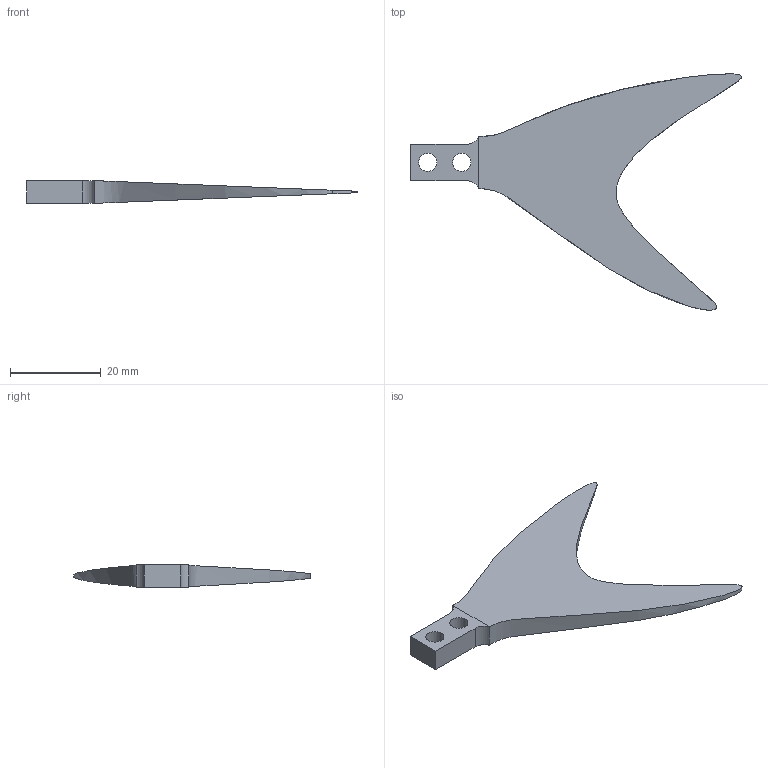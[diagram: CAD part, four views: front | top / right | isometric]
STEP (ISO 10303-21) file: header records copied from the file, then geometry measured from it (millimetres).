
FILE_DESCRIPTION(/* description */ (''),/* implementation_level */ '2;1');
FILE_NAME(/* name */ 'C:/Users/Diego/Downloads/9/Animalitos/Part5 v1.step',/* time_stamp */ '2019-06-14T13:38:25-04:00',/* author */ ('dcortesl1410'),/* organization */ (''),/* preprocessor_version */ 'ST-DEVELOPER v18',/* originating_system */ 'Autodesk Translation Framework v8.2.0.1029',/* authorisation */ '');
FILE_SCHEMA (('AUTOMOTIVE_DESIGN { 1 0 10303 214 3 1 1 }'));
Length unit declared in the file: millimetre
Products named in the file (1): Part5
Bounding box: 72.88 x 52.1 x 5 mm (x, y, z)
Volume: 4453.1 mm3; surface area: 3516.8 mm2
Topology: 1 solids, 1 shells, 12 faces, 26 edges, 16 vertices
Faces by surface type: plane 7, cylinder 4, bspline 1
Full cylindrical faces by diameter (mm): 4 x2
Entity records: 668 total; most frequent: CARTESIAN_POINT 363, DIRECTION 56, ORIENTED_EDGE 52, EDGE_CURVE 26, AXIS2_PLACEMENT_3D 20, EDGE_LOOP 16, LINE 16, VECTOR 16
